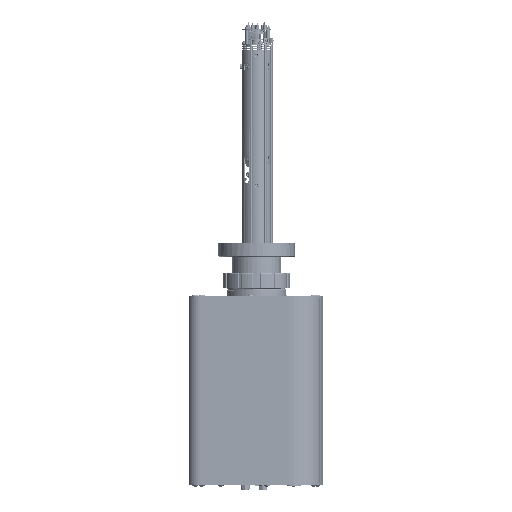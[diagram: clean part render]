
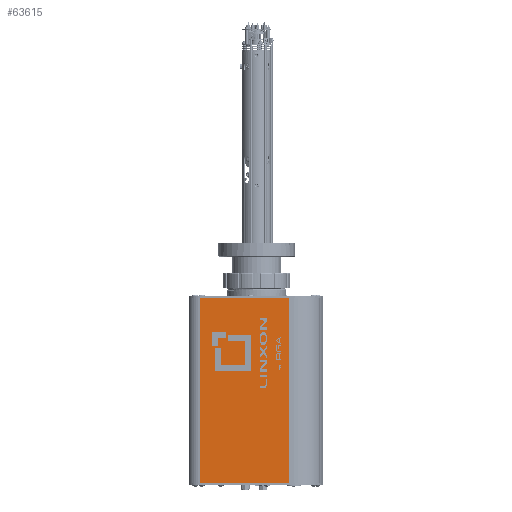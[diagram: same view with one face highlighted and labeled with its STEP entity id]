
A CAD part, left-side view. The second image highlights one B-rep face of the part: STEP entity #63615.
In plain terms, the highlighted planar face has unit normal (-1, 0, 0).
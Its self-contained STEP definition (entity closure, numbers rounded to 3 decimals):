
#22292=LINE('',#608336,#37922);
#22404=LINE('',#608661,#38034);
#22465=LINE('',#608819,#38095);
#22678=LINE('',#609302,#38308);
#37922=VECTOR('',#262295,1.);
#38034=VECTOR('',#262537,1.);
#38095=VECTOR('',#262642,1.);
#38308=VECTOR('',#263039,1.);
#44971=PLANE('',#214729);
#53244=FACE_OUTER_BOUND('',#86390,.T.);
#63615=ADVANCED_FACE('',(#53244),#44971,.T.);
#86390=EDGE_LOOP('',(#135994,#135995,#135996,#135997));
#135994=ORIENTED_EDGE('',*,*,#187410,.F.);
#135995=ORIENTED_EDGE('',*,*,#187329,.F.);
#135996=ORIENTED_EDGE('',*,*,#187169,.T.);
#135997=ORIENTED_EDGE('',*,*,#187664,.T.);
#159737=VERTEX_POINT('',#608335);
#159738=VERTEX_POINT('',#608337);
#159882=VERTEX_POINT('',#608662);
#159957=VERTEX_POINT('',#608820);
#187169=EDGE_CURVE('',#159738,#159737,#22292,.T.);
#187329=EDGE_CURVE('',#159738,#159882,#22404,.T.);
#187410=EDGE_CURVE('',#159882,#159957,#22465,.T.);
#187664=EDGE_CURVE('',#159737,#159957,#22678,.T.);
#214729=AXIS2_PLACEMENT_3D('',#609303,#263040,#263041);
#262295=DIRECTION('',(0.,1.,0.));
#262537=DIRECTION('',(0.,0.,-1.));
#262642=DIRECTION('',(0.,1.,0.));
#263039=DIRECTION('',(0.,0.,-1.));
#263040=DIRECTION('',(-1.,0.,0.));
#263041=DIRECTION('',(0.,-1.,0.));
#608335=CARTESIAN_POINT('',(-57.48,69.723,166.751));
#608336=CARTESIAN_POINT('',(-57.48,-11.179,166.751));
#608337=CARTESIAN_POINT('',(-57.48,-11.179,166.751));
#608661=CARTESIAN_POINT('',(-57.48,-11.179,166.751));
#608662=CARTESIAN_POINT('',(-57.48,-11.179,0.));
#608819=CARTESIAN_POINT('',(-57.48,-11.179,0.));
#608820=CARTESIAN_POINT('',(-57.48,69.723,0.));
#609302=CARTESIAN_POINT('',(-57.48,69.723,166.751));
#609303=CARTESIAN_POINT('',(-57.48,-11.179,166.751));
